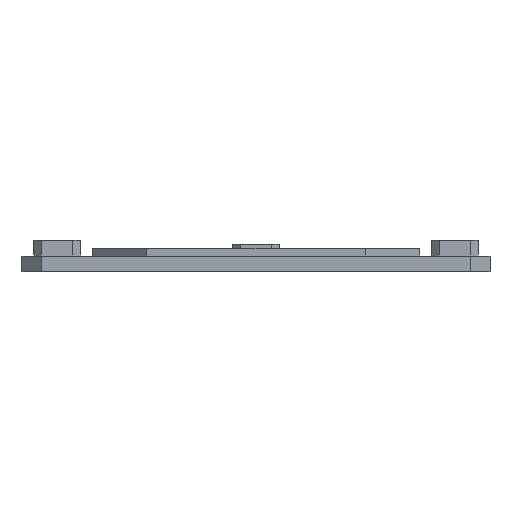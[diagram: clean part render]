
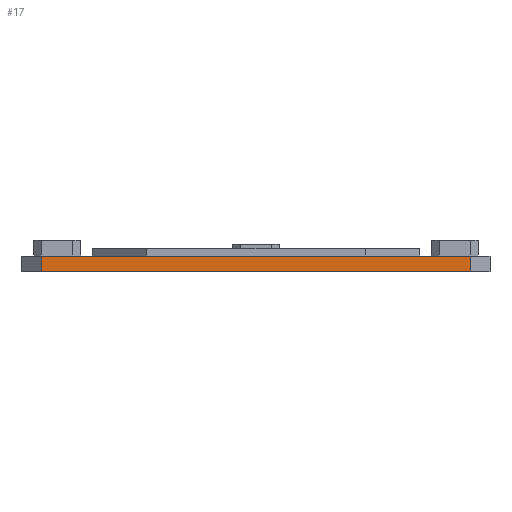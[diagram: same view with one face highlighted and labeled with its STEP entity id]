
A CAD part, front view. The second image highlights one B-rep face of the part: STEP entity #17.
In plain terms, the highlighted planar face has unit normal (0, -1, 0).
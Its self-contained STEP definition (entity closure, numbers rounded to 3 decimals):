
#17 = ADVANCED_FACE('',(#18),#32,.F.);
#18 = FACE_BOUND('',#19,.F.);
#19 = EDGE_LOOP('',(#20,#55,#83,#111));
#20 = ORIENTED_EDGE('',*,*,#21,.T.);
#21 = EDGE_CURVE('',#22,#24,#26,.T.);
#22 = VERTEX_POINT('',#23);
#23 = CARTESIAN_POINT('',(5.,0.,0.));
#24 = VERTEX_POINT('',#25);
#25 = CARTESIAN_POINT('',(5.,0.,4.));
#26 = SURFACE_CURVE('',#27,(#31,#43),.PCURVE_S1.);
#27 = LINE('',#28,#29);
#28 = CARTESIAN_POINT('',(5.,0.,0.));
#29 = VECTOR('',#30,1.);
#30 = DIRECTION('',(0.,0.,1.));
#31 = PCURVE('',#32,#37);
#32 = PLANE('',#33);
#33 = AXIS2_PLACEMENT_3D('',#34,#35,#36);
#34 = CARTESIAN_POINT('',(5.,0.,0.));
#35 = DIRECTION('',(0.,1.,0.));
#36 = DIRECTION('',(1.,0.,0.));
#37 = DEFINITIONAL_REPRESENTATION('',(#38),#42);
#38 = LINE('',#39,#40);
#39 = CARTESIAN_POINT('',(0.,0.));
#40 = VECTOR('',#41,1.);
#41 = DIRECTION('',(0.,-1.));
#42 = ( GEOMETRIC_REPRESENTATION_CONTEXT(2) 
PARAMETRIC_REPRESENTATION_CONTEXT() REPRESENTATION_CONTEXT('2D SPACE',''
  ) );
#43 = PCURVE('',#44,#49);
#44 = PLANE('',#45);
#45 = AXIS2_PLACEMENT_3D('',#46,#47,#48);
#46 = CARTESIAN_POINT('',(0.,5.,0.));
#47 = DIRECTION('',(0.707,0.707,-0.));
#48 = DIRECTION('',(0.707,-0.707,0.));
#49 = DEFINITIONAL_REPRESENTATION('',(#50),#54);
#50 = LINE('',#51,#52);
#51 = CARTESIAN_POINT('',(7.071,0.));
#52 = VECTOR('',#53,1.);
#53 = DIRECTION('',(0.,-1.));
#54 = ( GEOMETRIC_REPRESENTATION_CONTEXT(2) 
PARAMETRIC_REPRESENTATION_CONTEXT() REPRESENTATION_CONTEXT('2D SPACE',''
  ) );
#55 = ORIENTED_EDGE('',*,*,#56,.T.);
#56 = EDGE_CURVE('',#24,#57,#59,.T.);
#57 = VERTEX_POINT('',#58);
#58 = CARTESIAN_POINT('',(115.,0.,4.));
#59 = SURFACE_CURVE('',#60,(#64,#71),.PCURVE_S1.);
#60 = LINE('',#61,#62);
#61 = CARTESIAN_POINT('',(5.,0.,4.));
#62 = VECTOR('',#63,1.);
#63 = DIRECTION('',(1.,0.,0.));
#64 = PCURVE('',#32,#65);
#65 = DEFINITIONAL_REPRESENTATION('',(#66),#70);
#66 = LINE('',#67,#68);
#67 = CARTESIAN_POINT('',(0.,-4.));
#68 = VECTOR('',#69,1.);
#69 = DIRECTION('',(1.,0.));
#70 = ( GEOMETRIC_REPRESENTATION_CONTEXT(2) 
PARAMETRIC_REPRESENTATION_CONTEXT() REPRESENTATION_CONTEXT('2D SPACE',''
  ) );
#71 = PCURVE('',#72,#77);
#72 = PLANE('',#73);
#73 = AXIS2_PLACEMENT_3D('',#74,#75,#76);
#74 = CARTESIAN_POINT('',(60.,85.,4.));
#75 = DIRECTION('',(0.,0.,1.));
#76 = DIRECTION('',(1.,0.,-0.));
#77 = DEFINITIONAL_REPRESENTATION('',(#78),#82);
#78 = LINE('',#79,#80);
#79 = CARTESIAN_POINT('',(-55.,-85.));
#80 = VECTOR('',#81,1.);
#81 = DIRECTION('',(1.,0.));
#82 = ( GEOMETRIC_REPRESENTATION_CONTEXT(2) 
PARAMETRIC_REPRESENTATION_CONTEXT() REPRESENTATION_CONTEXT('2D SPACE',''
  ) );
#83 = ORIENTED_EDGE('',*,*,#84,.F.);
#84 = EDGE_CURVE('',#85,#57,#87,.T.);
#85 = VERTEX_POINT('',#86);
#86 = CARTESIAN_POINT('',(115.,0.,0.));
#87 = SURFACE_CURVE('',#88,(#92,#99),.PCURVE_S1.);
#88 = LINE('',#89,#90);
#89 = CARTESIAN_POINT('',(115.,0.,0.));
#90 = VECTOR('',#91,1.);
#91 = DIRECTION('',(0.,0.,1.));
#92 = PCURVE('',#32,#93);
#93 = DEFINITIONAL_REPRESENTATION('',(#94),#98);
#94 = LINE('',#95,#96);
#95 = CARTESIAN_POINT('',(110.,0.));
#96 = VECTOR('',#97,1.);
#97 = DIRECTION('',(0.,-1.));
#98 = ( GEOMETRIC_REPRESENTATION_CONTEXT(2) 
PARAMETRIC_REPRESENTATION_CONTEXT() REPRESENTATION_CONTEXT('2D SPACE',''
  ) );
#99 = PCURVE('',#100,#105);
#100 = PLANE('',#101);
#101 = AXIS2_PLACEMENT_3D('',#102,#103,#104);
#102 = CARTESIAN_POINT('',(115.,0.,0.));
#103 = DIRECTION('',(-0.707,0.707,0.));
#104 = DIRECTION('',(0.707,0.707,0.));
#105 = DEFINITIONAL_REPRESENTATION('',(#106),#110);
#106 = LINE('',#107,#108);
#107 = CARTESIAN_POINT('',(0.,0.));
#108 = VECTOR('',#109,1.);
#109 = DIRECTION('',(0.,-1.));
#110 = ( GEOMETRIC_REPRESENTATION_CONTEXT(2) 
PARAMETRIC_REPRESENTATION_CONTEXT() REPRESENTATION_CONTEXT('2D SPACE',''
  ) );
#111 = ORIENTED_EDGE('',*,*,#112,.F.);
#112 = EDGE_CURVE('',#22,#85,#113,.T.);
#113 = SURFACE_CURVE('',#114,(#118,#125),.PCURVE_S1.);
#114 = LINE('',#115,#116);
#115 = CARTESIAN_POINT('',(5.,0.,0.));
#116 = VECTOR('',#117,1.);
#117 = DIRECTION('',(1.,0.,0.));
#118 = PCURVE('',#32,#119);
#119 = DEFINITIONAL_REPRESENTATION('',(#120),#124);
#120 = LINE('',#121,#122);
#121 = CARTESIAN_POINT('',(0.,0.));
#122 = VECTOR('',#123,1.);
#123 = DIRECTION('',(1.,0.));
#124 = ( GEOMETRIC_REPRESENTATION_CONTEXT(2) 
PARAMETRIC_REPRESENTATION_CONTEXT() REPRESENTATION_CONTEXT('2D SPACE',''
  ) );
#125 = PCURVE('',#126,#131);
#126 = PLANE('',#127);
#127 = AXIS2_PLACEMENT_3D('',#128,#129,#130);
#128 = CARTESIAN_POINT('',(60.,85.,0.));
#129 = DIRECTION('',(0.,0.,1.));
#130 = DIRECTION('',(1.,0.,-0.));
#131 = DEFINITIONAL_REPRESENTATION('',(#132),#136);
#132 = LINE('',#133,#134);
#133 = CARTESIAN_POINT('',(-55.,-85.));
#134 = VECTOR('',#135,1.);
#135 = DIRECTION('',(1.,0.));
#136 = ( GEOMETRIC_REPRESENTATION_CONTEXT(2) 
PARAMETRIC_REPRESENTATION_CONTEXT() REPRESENTATION_CONTEXT('2D SPACE',''
  ) );
